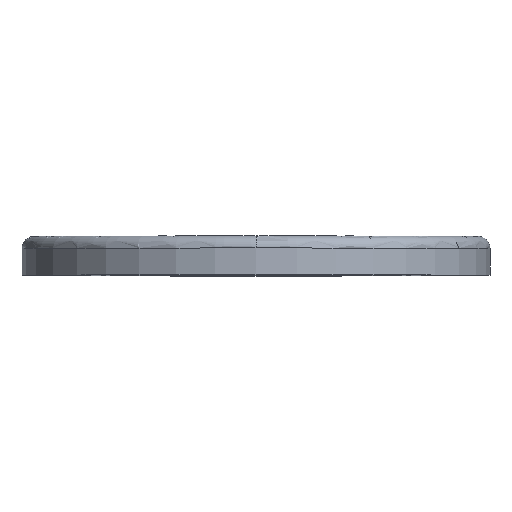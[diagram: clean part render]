
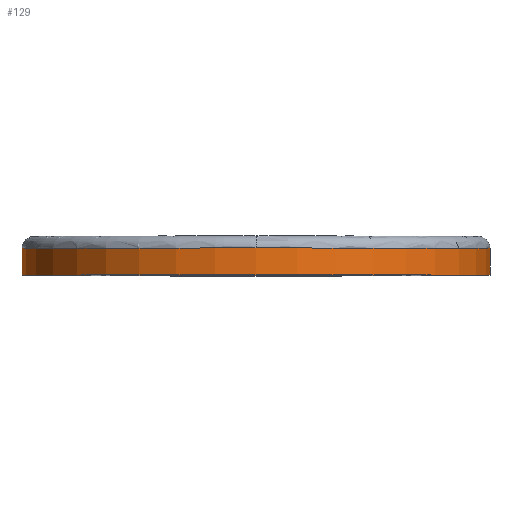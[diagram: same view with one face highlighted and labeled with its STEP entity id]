
A CAD part, top view. The second image highlights one B-rep face of the part: STEP entity #129.
In plain terms, the highlighted cylindrical face has radius 252.5 mm (diameter 505 mm), a partial arc.
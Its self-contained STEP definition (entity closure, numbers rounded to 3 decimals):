
#129=ADVANCED_FACE('',(#298),#299,.T.);
#298=FACE_OUTER_BOUND('',#517,.T.);
#299=CYLINDRICAL_SURFACE('',#518,252.5);
#517=EDGE_LOOP('',(#762,#763,#764,#765,#766));
#518=AXIS2_PLACEMENT_3D('',#767,#768,#769);
#762=ORIENTED_EDGE('',*,*,#1557,.F.);
#763=ORIENTED_EDGE('',*,*,#1558,.T.);
#764=ORIENTED_EDGE('',*,*,#1559,.F.);
#765=ORIENTED_EDGE('',*,*,#1560,.F.);
#766=ORIENTED_EDGE('',*,*,#1561,.F.);
#767=CARTESIAN_POINT('',(-521.025,504.319,0.0));
#768=DIRECTION('',(0.0,1.0,0.0));
#769=DIRECTION('',(-1.0,0.0,0.0));
#1557=EDGE_CURVE('',#1926,#1927,#1928,.T.);
#1558=EDGE_CURVE('',#1926,#1929,#1930,.T.);
#1559=EDGE_CURVE('',#1931,#1929,#1932,.T.);
#1560=EDGE_CURVE('',#1933,#1931,#1934,.T.);
#1561=EDGE_CURVE('',#1927,#1933,#1935,.T.);
#1926=VERTEX_POINT('',#2458);
#1927=VERTEX_POINT('',#2459);
#1928=LINE('',#2460,#2461);
#1929=VERTEX_POINT('',#2462);
#1930=CIRCLE('',#2463,252.5);
#1931=VERTEX_POINT('',#2464);
#1932=LINE('',#2465,#2466);
#1933=VERTEX_POINT('',#2467);
#1934=CIRCLE('',#2468,252.5);
#1935=CIRCLE('',#2469,252.5);
#2458=CARTESIAN_POINT('',(-773.525,489.819,0.0));
#2459=CARTESIAN_POINT('',(-773.525,518.819,0.0));
#2460=CARTESIAN_POINT('',(-773.525,504.319,0.));
#2461=VECTOR('',#3719,1.0);
#2462=CARTESIAN_POINT('',(-268.525,489.819,0.));
#2463=AXIS2_PLACEMENT_3D('',#3720,#3721,#3722);
#2464=CARTESIAN_POINT('',(-268.525,518.819,0.));
#2465=CARTESIAN_POINT('',(-268.525,504.319,0.));
#2466=VECTOR('',#3723,1.0);
#2467=CARTESIAN_POINT('',(-521.025,518.819,252.5));
#2468=AXIS2_PLACEMENT_3D('',#3724,#3725,#3726);
#2469=AXIS2_PLACEMENT_3D('',#3727,#3728,#3729);
#3719=DIRECTION('',(0.0,1.0,0.0));
#3720=CARTESIAN_POINT('',(-521.025,489.819,0.0));
#3721=DIRECTION('',(0.0,1.0,0.0));
#3722=DIRECTION('',(-1.0,0.0,0.0));
#3723=DIRECTION('',(-0.0,-1.0,-0.0));
#3724=CARTESIAN_POINT('',(-521.025,518.819,0.0));
#3725=DIRECTION('',(0.0,1.0,0.0));
#3726=DIRECTION('',(-1.0,0.0,0.0));
#3727=CARTESIAN_POINT('',(-521.025,518.819,0.0));
#3728=DIRECTION('',(0.0,1.0,0.0));
#3729=DIRECTION('',(-1.0,0.0,0.0));
